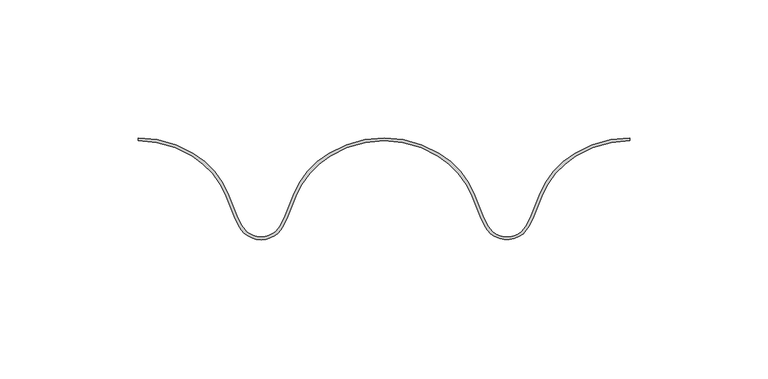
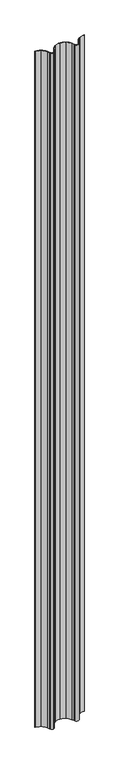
"""IFC4 building model written with IfcOpenShell, lengths in millimetres: plate geometry, Regolare Couverture 178  : Regolare Couverture 178 ."""

import ifcopenshell
import ifcopenshell.guid

model = None  # the IFC model being written
_history = None  # IfcOwnerHistory: only IFC2X3 demands one
_inside = {}  # id of a spatial element -> (the spatial element, [elements in it])
_under = {}  # id of a project, library or spatial element -> (it, [spatial elements below it])
_declared = {}  # id of a project -> (the project, [libraries it declares])
_typed = {}  # id of a type object -> (the type object, [elements of that type])
_made_of = {}  # id of a material, layer set ... -> (it, [elements and type objects made of it])


def new_model(schema):
    """Start an empty IFC model of exactly this schema.

    Asked for "IFC4X3", IfcOpenShell would pick the latest addendum, in which some entities
    have other attributes; the version numbers below select the first issue.
    IFC2X3 requires an IfcOwnerHistory on every rooted entity: one is made here for all.
    """
    global model, _history
    if schema == "IFC4X3":
        model = ifcopenshell.file(schema_version=(4, 3, 0, 0))
    else:
        model = ifcopenshell.file(schema=schema)
    _inside.clear()
    _under.clear()
    _declared.clear()
    _typed.clear()
    _made_of.clear()
    _history = None
    if model.schema == "IFC2X3":
        org = make("IfcOrganization", Name="unknown")
        user = make(
            "IfcPersonAndOrganization",
            ThePerson=make("IfcPerson", FamilyName="unknown"),
            TheOrganization=org,
        )
        app = make(
            "IfcApplication",
            ApplicationDeveloper=org,
            Version="unknown",
            ApplicationFullName="unknown",
            ApplicationIdentifier="unknown",
        )
        _history = make(
            "IfcOwnerHistory",
            OwningUser=user,
            OwningApplication=app,
            ChangeAction="ADDED",
            CreationDate=0,
        )
    return model


def make(cls, **values):
    """One entity of the class cls with the attributes given. An attribute that is None is left unset."""
    return model.create_entity(
        cls, **{name: value for name, value in values.items() if value is not None}
    )


def rooted(cls, **values):
    """An entity with a GlobalId (a new one), such as an element, a storey or a relation."""
    return make(cls, GlobalId=ifcopenshell.guid.new(), OwnerHistory=_history, **values)


def si_unit(unit_type, name, prefix=None):
    """IfcSIUnit, for example si_unit("LENGTHUNIT", "METRE", prefix="MILLI")."""
    return make("IfcSIUnit", UnitType=unit_type, Prefix=prefix, Name=name)


def assignment(units):
    """IfcUnitAssignment: the units of a project."""
    return None if units is None else make("IfcUnitAssignment", Units=units)


def point(xyz):
    """IfcCartesianPoint."""
    return None if xyz is None else make("IfcCartesianPoint", Coordinates=xyz)


def direction(xyz):
    """IfcDirection."""
    return None if xyz is None else make("IfcDirection", DirectionRatios=xyz)


def frame(location, z_axis=None, x_axis=None):
    """IfcAxis2Placement3D, a coordinate frame: its origin and axes. An axis left out is left unset."""
    return make(
        "IfcAxis2Placement3D",
        Location=point(location),
        Axis=direction(z_axis),
        RefDirection=direction(x_axis),
    )


def frame_2d(location, x_axis=None):
    """IfcAxis2Placement2D, a coordinate frame in the plane: its origin and x axis."""
    return make(
        "IfcAxis2Placement2D", Location=point(location), RefDirection=direction(x_axis)
    )


def origin():
    """The frame at (0, 0, 0) with its axes left unset."""
    return frame((0.0, 0.0, 0.0))


def origin_with_axes():
    """The frame at (0, 0, 0) with the z axis (0, 0, 1) and the x axis (1, 0, 0) written out."""
    return frame((0.0, 0.0, 0.0), z_axis=(0.0, 0.0, 1.0), x_axis=(1.0, 0.0, 0.0))


def place(relative_to, where):
    """IfcLocalPlacement: puts the frame where relative to a parent placement (None: the world)."""
    return make(
        "IfcLocalPlacement", PlacementRelTo=relative_to, RelativePlacement=where
    )


def context(
    kind, dimensions, precision=None, world=None, true_north=None, identifier=None
):
    """IfcGeometricRepresentationContext, for example the 3D "Model" context."""
    return make(
        "IfcGeometricRepresentationContext",
        ContextIdentifier=identifier,
        ContextType=kind,
        CoordinateSpaceDimension=dimensions,
        Precision=precision,
        WorldCoordinateSystem=world,
        TrueNorth=true_north,
    )


def project(units=None, contexts=None):
    """IfcProject with its units and contexts."""
    return rooted(
        "IfcProject",
        Name="project",
        RepresentationContexts=contexts,
        UnitsInContext=assignment(units),
    )


def spatial(cls, under=None, at=None, **own):
    """A site, building, storey or space (cls), placed at a placement, below another one or the project."""
    s = rooted(cls, ObjectPlacement=at, **own)
    if under is not None:
        _under.setdefault(under.id(), (under, []))[1].append(s)
    return s


def polyline(points):
    """IfcPolyline through the points."""
    return make("IfcPolyline", Points=[point(p) for p in points])


def circle_curve(where, radius):
    """IfcCircle in the frame where."""
    return make("IfcCircle", Position=where, Radius=radius)


def trimmed(basis, trim1, trim2, sense, master):
    """IfcTrimmedCurve: the piece of a basis curve between two trims."""
    return make(
        "IfcTrimmedCurve",
        BasisCurve=basis,
        Trim1=trim1,
        Trim2=trim2,
        SenseAgreement=sense,
        MasterRepresentation=master,
    )


def segment(curve, same_sense, transition):
    """IfcCompositeCurveSegment."""
    return make(
        "IfcCompositeCurveSegment",
        Transition=transition,
        SameSense=same_sense,
        ParentCurve=curve,
    )


def composite_curve(segments, self_intersect=None):
    """IfcCompositeCurve: segments joined end to end."""
    return make("IfcCompositeCurve", Segments=segments, SelfIntersect=self_intersect)


def outline(outer, holes=None, kind="AREA"):
    """IfcArbitraryClosedProfileDef: a profile drawn as a closed curve; with holes, ...WithVoids."""
    if holes is None:
        return make("IfcArbitraryClosedProfileDef", ProfileType=kind, OuterCurve=outer)
    return make(
        "IfcArbitraryProfileDefWithVoids",
        ProfileType=kind,
        OuterCurve=outer,
        InnerCurves=holes,
    )


def extrude(swept, where, along, depth):
    """IfcExtrudedAreaSolid: the profile swept, set in the frame where, extruded along a direction by depth."""
    return make(
        "IfcExtrudedAreaSolid",
        SweptArea=swept,
        Position=where,
        ExtrudedDirection=direction(along),
        Depth=depth,
    )


def shape(context_of_items, identifier, shape_type, items):
    """IfcShapeRepresentation: the items that make up one representation, for example the "Body"."""
    return make(
        "IfcShapeRepresentation",
        ContextOfItems=context_of_items,
        RepresentationIdentifier=identifier,
        RepresentationType=shape_type,
        Items=items,
    )


def source(mapping_origin, context_of_items, identifier, shape_type, items):
    """IfcRepresentationMap: a shape defined once, which mapped items show again and again."""
    return make(
        "IfcRepresentationMap",
        MappingOrigin=mapping_origin,
        MappedRepresentation=shape(context_of_items, identifier, shape_type, items),
    )


def transform(
    local_origin,
    x_axis=None,
    y_axis=None,
    z_axis=None,
    scale=None,
    scale2=None,
    scale3=None,
    uniform=True,
):
    """IfcCartesianTransformationOperator3D, or its non-uniform kind. x_axis, y_axis, z_axis: its Axis1, 2, 3."""
    if uniform:
        return make(
            "IfcCartesianTransformationOperator3D",
            Axis1=direction(x_axis),
            Axis2=direction(y_axis),
            LocalOrigin=point(local_origin),
            Scale=scale,
            Axis3=direction(z_axis),
        )
    return make(
        "IfcCartesianTransformationOperator3DnonUniform",
        Axis1=direction(x_axis),
        Axis2=direction(y_axis),
        LocalOrigin=point(local_origin),
        Scale=scale,
        Axis3=direction(z_axis),
        Scale2=scale2,
        Scale3=scale3,
    )


def mapped(mapping_source, mapping_target):
    """IfcMappedItem: shows the shape of a source again, moved by a transform."""
    return make(
        "IfcMappedItem", MappingSource=mapping_source, MappingTarget=mapping_target
    )


def made_of(thing, what):
    """Note that an element or type object is made of a material, layer set ...; save() writes the relation."""
    if what is not None:
        _made_of.setdefault(what.id(), (what, []))[1].append(thing)
    return thing


def element(
    cls,
    number,
    at=None,
    inside=None,
    cuts=None,
    type_object=None,
    material=None,
    context=None,
    identifier="Body",
    shape_type=None,
    held_by="IfcProductDefinitionShape",
    body=None,
    shapes=None,
    **own,
):
    """One element of the class cls, such as IfcWall. Its Tag is "e" and its number.

    at: its placement. inside: the storey or other place that contains it. cuts: it is an
    opening in that element (IfcRelVoidsElement). A single representation is given by context,
    identifier, shape_type and body (its items); several are given by shapes. held_by: the class
    of the entity that holds the representations. save() writes the other relations.
    """
    e = rooted(cls, Tag="e%d" % number, ObjectPlacement=at, **own)
    if body is not None:
        shapes = [shape(context, identifier, shape_type, body)]
    if shapes is not None:
        e.Representation = make(held_by, Representations=shapes)
    if inside is not None:
        _inside.setdefault(inside.id(), (inside, []))[1].append(e)
    if cuts is not None:
        rooted(
            "IfcRelVoidsElement", RelatingBuildingElement=cuts, RelatedOpeningElement=e
        )
    if type_object is not None:
        _typed.setdefault(type_object.id(), (type_object, []))[1].append(e)
    return made_of(e, material)


def aggregate(whole, parts):
    """IfcRelAggregates: a whole, such as a stair, and the parts it consists of."""
    return rooted("IfcRelAggregates", RelatingObject=whole, RelatedObjects=parts)


def save(model, path):
    """Write the relations noted so far, then the file.

    IfcRelAggregates (storeys below a building ...), IfcRelContainedInSpatialStructure (elements
    in a storey), IfcRelDefinesByType, IfcRelAssociatesMaterial and IfcRelDeclares: one each for
    every whole, place, type object, material and project.
    """
    for whole, parts in _under.values():
        aggregate(whole, parts)
    for where, things in _inside.values():
        rooted(
            "IfcRelContainedInSpatialStructure",
            RelatedElements=things,
            RelatingStructure=where,
        )
    for kind, things in _typed.values():
        rooted("IfcRelDefinesByType", RelatedObjects=things, RelatingType=kind)
    for what, things in _made_of.values():
        rooted("IfcRelAssociatesMaterial", RelatedObjects=things, RelatingMaterial=what)
    for by, libraries in _declared.values():
        rooted("IfcRelDeclares", RelatingContext=by, RelatedDefinitions=libraries)
    model.write(path)


def plate_ff152abd(model_context):
    return source(origin(), model_context, "Body", "SweptSolid", [
        extrude(outline(composite_curve([segment(trimmed(circle_curve(frame_2d((-89.0514891, -1.5098563)), 37.4503244), [point((-69.5107389, 30.4383187))], [point((-89.0514891, 35.9404682))], True, "CARTESIAN"), True, "CONTINUOUS"), segment(polyline([(-89.0514891, 35.9404682), (-89.0514891, 36.9404682)]), True, "CONTINUOUS"), segment(trimmed(circle_curve(frame_2d((-89.0514891, -1.5098563)), 38.4503244), [point((-89.0514891, 36.9404682))], [point((-68.9889611, 31.2914001))], False, "CARTESIAN"), True, "CONTINUOUS"), segment(trimmed(circle_curve(frame_2d((-85.4858438, 4.3198001)), 31.6166783), [point((-68.9889611, 31.2914001))], [point((-56.1303596, 16.0616012))], False, "CARTESIAN"), True, "CONTINUOUS"), segment(polyline([(-56.1303596, 16.0616012), (-53.2611379, 8.8980757), (-51.6147842, 5.4633665)]), True, "CONTINUOUS"), segment(trimmed(circle_curve(frame_2d((-44.5257445, 8.8613445)), 7.8613445), [point((-51.6147842, 5.4633665))], [point((-44.5257445, 1.0))], True, "CARTESIAN"), True, "CONTINUOUS"), segment(trimmed(circle_curve(frame_2d((-44.5257445, 8.8613445)), 7.8613445), [point((-44.5257445, 1.0))], [point((-37.4367049, 5.4633665))], True, "CARTESIAN"), True, "CONTINUOUS"), segment(polyline([(-37.4367049, 5.4633665), (-35.7903512, 8.8980757), (-32.9211295, 16.0616012)]), True, "CONTINUOUS"), segment(trimmed(circle_curve(frame_2d((-3.5656452, 4.3198001)), 31.6166783), [point((-32.9211295, 16.0616012))], [point((-20.062528, 31.2914001))], False, "CARTESIAN"), True, "CONTINUOUS"), segment(trimmed(circle_curve(frame_2d((0.0, -1.5098563)), 38.4503244), [point((-20.062528, 31.2914001))], [point((0.0, 36.9404682))], False, "CARTESIAN"), True, "CONTINUOUS"), segment(trimmed(circle_curve(frame_2d((0.0, -1.5098563)), 38.4503244), [point((0.0, 36.9404682))], [point((20.062528, 31.2914001))], False, "CARTESIAN"), True, "CONTINUOUS"), segment(trimmed(circle_curve(frame_2d((3.5656452, 4.3198001)), 31.6166783), [point((20.062528, 31.2914001))], [point((32.9211295, 16.0616012))], False, "CARTESIAN"), True, "CONTINUOUS"), segment(polyline([(32.9211295, 16.0616012), (35.7903512, 8.8980757), (37.4367049, 5.4633665)]), True, "CONTINUOUS"), segment(trimmed(circle_curve(frame_2d((44.5257445, 8.8613445)), 7.8613445), [point((37.4367049, 5.4633665))], [point((51.6147842, 5.4633665))], True, "CARTESIAN"), True, "CONTINUOUS"), segment(polyline([(51.6147842, 5.4633665), (53.2611379, 8.8980757), (56.1303596, 16.0616012)]), True, "CONTINUOUS"), segment(trimmed(circle_curve(frame_2d((85.4858438, 4.3198001)), 31.6166783), [point((56.1303596, 16.0616012))], [point((68.9889611, 31.2914001))], False, "CARTESIAN"), True, "CONTINUOUS"), segment(trimmed(circle_curve(frame_2d((89.0514891, -1.5098563)), 38.4503244), [point((68.9889611, 31.2914001))], [point((89.0514891, 36.9404682))], False, "CARTESIAN"), True, "CONTINUOUS"), segment(polyline([(89.0514891, 36.9404682), (89.0514891, 35.9404682)]), True, "CONTINUOUS"), segment(trimmed(circle_curve(frame_2d((89.0514891, -1.5098563)), 37.4503244), [point((89.0514891, 35.9404682))], [point((69.5107389, 30.4383187))], True, "CARTESIAN"), True, "CONTINUOUS"), segment(trimmed(circle_curve(frame_2d((85.4858438, 4.3198001)), 30.6166783), [point((69.5107389, 30.4383187))], [point((57.058754, 15.6900047))], True, "CARTESIAN"), True, "CONTINUOUS"), segment(polyline([(57.058754, 15.6900047), (54.1771681, 8.4956098), (52.5165434, 5.0311277)]), True, "CONTINUOUS"), segment(trimmed(circle_curve(frame_2d((44.5257445, 8.8613445)), 8.8613445), [point((52.5165434, 5.0311277))], [point((36.5349457, 5.0311277))], False, "CARTESIAN"), True, "CONTINUOUS"), segment(polyline([(36.5349457, 5.0311277), (34.874321, 8.4956098), (31.9927351, 15.6900047)]), True, "CONTINUOUS"), segment(trimmed(circle_curve(frame_2d((3.5656452, 4.3198001)), 30.6166783), [point((31.9927351, 15.6900047))], [point((19.5407501, 30.4383187))], True, "CARTESIAN"), True, "CONTINUOUS"), segment(trimmed(circle_curve(frame_2d((0.0, -1.5098563)), 37.4503244), [point((19.5407501, 30.4383187))], [point((0.0, 35.9404682))], True, "CARTESIAN"), True, "CONTINUOUS"), segment(trimmed(circle_curve(frame_2d((0.0, -1.5098563)), 37.4503244), [point((0.0, 35.9404682))], [point((-19.5407501, 30.4383187))], True, "CARTESIAN"), True, "CONTINUOUS"), segment(trimmed(circle_curve(frame_2d((-3.5656452, 4.3198001)), 30.6166783), [point((-19.5407501, 30.4383187))], [point((-31.9927351, 15.6900047))], True, "CARTESIAN"), True, "CONTINUOUS"), segment(polyline([(-31.9927351, 15.6900047), (-34.874321, 8.4956098), (-36.5349457, 5.0311277)]), True, "CONTINUOUS"), segment(trimmed(circle_curve(frame_2d((-44.5257445, 8.8613445)), 8.8613445), [point((-36.5349457, 5.0311277))], [point((-44.5257445, 0.0))], False, "CARTESIAN"), True, "CONTINUOUS"), segment(trimmed(circle_curve(frame_2d((-44.5257445, 8.8613445)), 8.8613445), [point((-44.5257445, 0.0))], [point((-52.5165434, 5.0311277))], False, "CARTESIAN"), True, "CONTINUOUS"), segment(polyline([(-52.5165434, 5.0311277), (-54.1771681, 8.4956098), (-57.058754, 15.6900047)]), True, "CONTINUOUS"), segment(trimmed(circle_curve(frame_2d((-85.4858438, 4.3198001)), 30.6166783), [point((-57.058754, 15.6900047))], [point((-69.5107389, 30.4383187))], True, "CARTESIAN"), True, "CONTINUOUS")], self_intersect=False)), origin_with_axes(), (0.0, 0.0, 1.0), 2588.190451),
    ])


if __name__ == "__main__":
    model = new_model("IFC4")
    model_context = context("Model", 3, world=origin())
    ifc_project = project(units=[si_unit("LENGTHUNIT", "METRE", prefix="MILLI")], contexts=[model_context])
    site = spatial("IfcSite", under=ifc_project)
    building = spatial("IfcBuilding", under=site)
    placement = place(None, origin())
    plate_shape = plate_ff152abd(model_context)
    element("IfcPlate", 1, ObjectType="Regolare Couverture 178  : Regolare Couverture 178 ", at=placement, inside=building, context=model_context, shape_type="MappedRepresentation", body=[
        mapped(plate_shape, transform((0.0, 0.0, 0.0), x_axis=(1.0, 0.0, 0.0), y_axis=(0.0, 1.0, 0.0), z_axis=(0.0, 0.0, 1.0))),
    ])
    save(model, "model.ifc")
